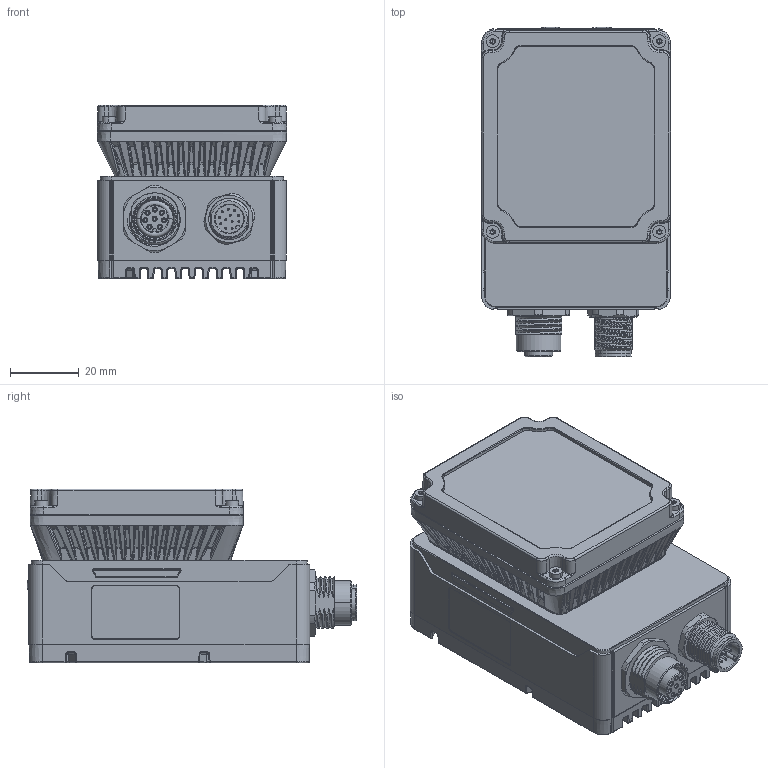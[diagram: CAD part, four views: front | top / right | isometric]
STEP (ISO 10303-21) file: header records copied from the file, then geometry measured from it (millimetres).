
FILE_DESCRIPTION((''),'2;1');
FILE_NAME('DH3-RD003980-6001_1_1','2024-08-03T14:20:07',('19499'),(''),'CREO PARAMETRIC BY PTC INC, 2020184','CREO PARAMETRIC BY PTC INC, 2020184','');
FILE_SCHEMA(('CONFIG_CONTROL_DESIGN','SHAPE_APPEARANCE_LAYERS_GROUPS'));
Products named in the file (1): DH3-RD003980-6001_1_1
Bounding box: 55.2 x 96.05 x 50.7 mm (x, y, z)
Volume: 190697.2 mm3; surface area: 39936 mm2
Topology: 2 solids, 43 shells, 3187 faces, 7904 edges, 4799 vertices
Faces by surface type: cylinder 1237, plane 776, bspline 647, cone 273, torus 190, sphere 60, extrusion 4
Entity records: 182936 total; most frequent: CARTESIAN_POINT 88722, ORIENTED_EDGE 15684, DIRECTION 13347, PRESENTATION_STYLE_ASSIGNMENT 7871, STYLED_ITEM 7858, CURVE_STYLE 7842, EDGE_CURVE 7842, AXIS2_PLACEMENT_3D 5263
